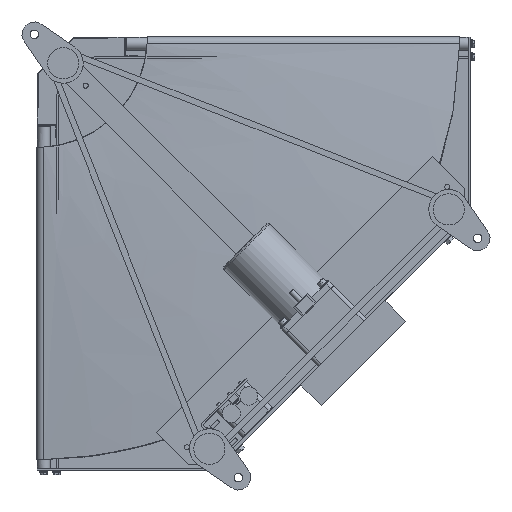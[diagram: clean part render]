
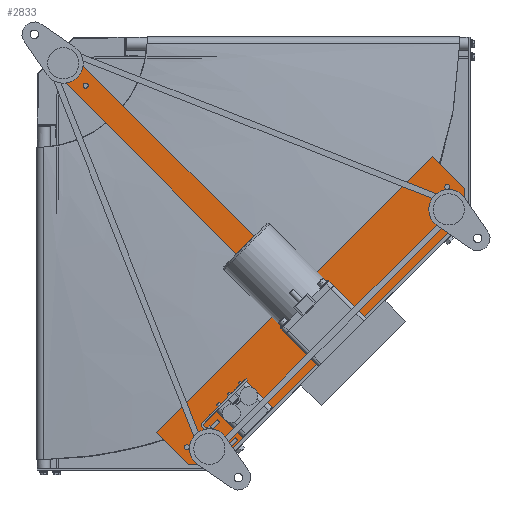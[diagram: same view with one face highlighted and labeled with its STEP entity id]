
A CAD part, front view. The second image highlights one B-rep face of the part: STEP entity #2833.
In plain terms, the highlighted planar face has unit normal (0, -1, 0).
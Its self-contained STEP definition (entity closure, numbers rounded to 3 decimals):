
#2833=ADVANCED_FACE('',(#7540),#7539,.T.);
#7539=PLANE('',#18739);
#7540=FACE_OUTER_BOUND('',#18740,.T.);
#18736=CARTESIAN_POINT('',(5.203,-167.5,-5.203));
#18737=DIRECTION('',(0.,-1.,0.));
#18738=DIRECTION('',(0.,0.,-1.));
#18739=AXIS2_PLACEMENT_3D('',#18736,#18737,#18738);
#18740=EDGE_LOOP('',(#25398,#25399,#25400,#25401,#25402,#25403,#25404,#25405,#25406,#25407));
#25398=ORIENTED_EDGE('',*,*,#29804,.F.);
#25399=ORIENTED_EDGE('',*,*,#29808,.F.);
#25400=ORIENTED_EDGE('',*,*,#29786,.F.);
#25401=ORIENTED_EDGE('',*,*,#29794,.F.);
#25402=ORIENTED_EDGE('',*,*,#29809,.F.);
#25403=ORIENTED_EDGE('',*,*,#29810,.F.);
#25404=ORIENTED_EDGE('',*,*,#29790,.F.);
#25405=ORIENTED_EDGE('',*,*,#29811,.F.);
#25406=ORIENTED_EDGE('',*,*,#29812,.F.);
#25407=ORIENTED_EDGE('',*,*,#29780,.F.);
#29780=EDGE_CURVE('',#37465,#37466,#37467,.T.);
#29786=EDGE_CURVE('',#37507,#37508,#37509,.T.);
#29790=EDGE_CURVE('',#37535,#37536,#37537,.T.);
#29794=EDGE_CURVE('',#37563,#37507,#37564,.T.);
#29804=EDGE_CURVE('',#37630,#37465,#37631,.T.);
#29808=EDGE_CURVE('',#37508,#37630,#37656,.T.);
#29809=EDGE_CURVE('',#37662,#37563,#37663,.T.);
#29810=EDGE_CURVE('',#37536,#37662,#37669,.T.);
#29811=EDGE_CURVE('',#37675,#37535,#37676,.T.);
#29812=EDGE_CURVE('',#37466,#37675,#37682,.T.);
#37465=VERTEX_POINT('',#53836);
#37466=VERTEX_POINT('',#53837);
#37467=LINE('',#53838,#53839);
#37507=VERTEX_POINT('',#53862);
#37508=VERTEX_POINT('',#53863);
#37509=LINE('',#53864,#53865);
#37535=VERTEX_POINT('',#53878);
#37536=VERTEX_POINT('',#53879);
#37537=LINE('',#53880,#53881);
#37563=VERTEX_POINT('',#53894);
#37564=LINE('',#53895,#53896);
#37630=VERTEX_POINT('',#53931);
#37631=LINE('',#53932,#53933);
#37656=LINE('',#53945,#53946);
#37662=VERTEX_POINT('',#53948);
#37663=LINE('',#53949,#53950);
#37669=LINE('',#53952,#53953);
#37675=VERTEX_POINT('',#53955);
#37676=LINE('',#53956,#53957);
#37682=LINE('',#53959,#53960);
#53836=CARTESIAN_POINT('',(15.203,-167.5,-42.073));
#53837=CARTESIAN_POINT('',(42.073,-167.5,-15.203));
#53838=CARTESIAN_POINT('',(15.203,-167.5,-42.073));
#53839=VECTOR('',#53840,38.);
#53840=DIRECTION('',(0.707,0.,0.707));
#53862=CARTESIAN_POINT('',(232.638,-167.5,-656.902));
#53863=CARTESIAN_POINT('',(183.141,-167.5,-607.405));
#53864=CARTESIAN_POINT('',(232.638,-167.5,-656.902));
#53865=VECTOR('',#53866,70.);
#53866=DIRECTION('',(-0.707,0.,0.707));
#53878=CARTESIAN_POINT('',(607.405,-167.5,-183.141));
#53879=CARTESIAN_POINT('',(656.902,-167.5,-232.638));
#53880=CARTESIAN_POINT('',(607.405,-167.5,-183.141));
#53881=VECTOR('',#53882,70.);
#53882=DIRECTION('',(0.707,0.,-0.707));
#53894=CARTESIAN_POINT('',(275.065,-167.5,-656.902));
#53895=CARTESIAN_POINT('',(275.065,-167.5,-656.902));
#53896=VECTOR('',#53897,42.426);
#53897=DIRECTION('',(-1.,0.,0.));
#53931=CARTESIAN_POINT('',(381.838,-167.5,-408.708));
#53932=CARTESIAN_POINT('',(381.838,-167.5,-408.708));
#53933=VECTOR('',#53934,518.5);
#53934=DIRECTION('',(-0.707,0.,0.707));
#53945=CARTESIAN_POINT('',(183.141,-167.5,-607.405));
#53946=VECTOR('',#53947,281.);
#53947=DIRECTION('',(0.707,0.,0.707));
#53948=CARTESIAN_POINT('',(656.902,-167.5,-275.065));
#53949=CARTESIAN_POINT('',(656.902,-167.5,-275.065));
#53950=VECTOR('',#53951,540.);
#53951=DIRECTION('',(-0.707,0.,-0.707));
#53952=CARTESIAN_POINT('',(656.902,-167.5,-232.638));
#53953=VECTOR('',#53954,42.426);
#53954=DIRECTION('',(0.,0.,-1.));
#53955=CARTESIAN_POINT('',(408.708,-167.5,-381.838));
#53956=CARTESIAN_POINT('',(408.708,-167.5,-381.838));
#53957=VECTOR('',#53958,281.);
#53958=DIRECTION('',(0.707,0.,0.707));
#53959=CARTESIAN_POINT('',(42.073,-167.5,-15.203));
#53960=VECTOR('',#53961,518.5);
#53961=DIRECTION('',(0.707,0.,-0.707));
